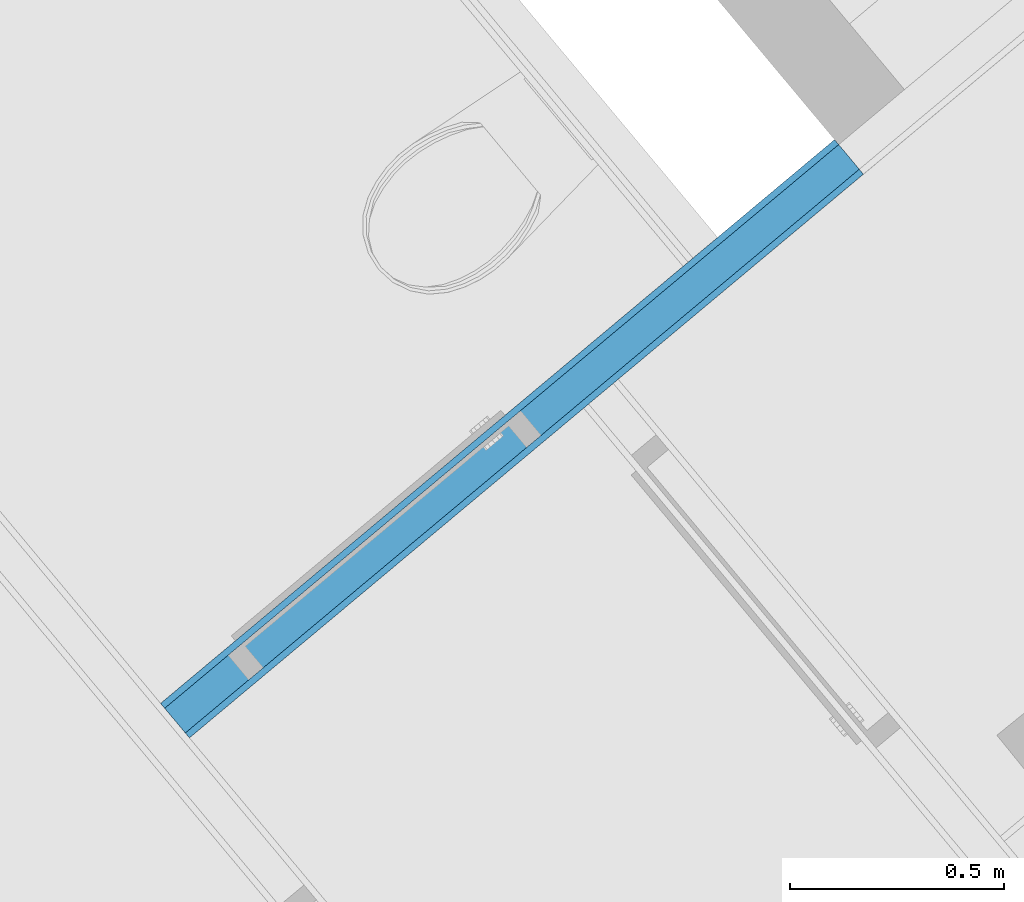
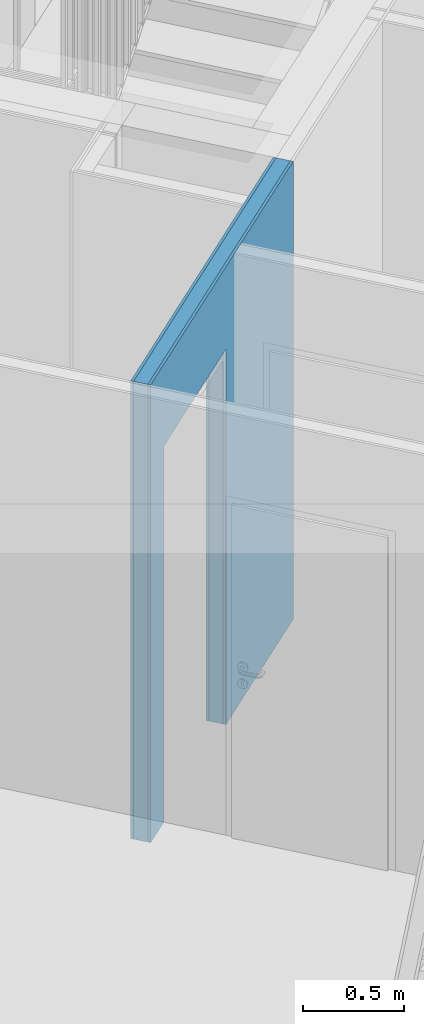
# One storey, part 4 of 67: 3 building element parts, 1 opening, 1 element without a shape of its own.
"""IFC4 building model written with IfcOpenShell, lengths in metres."""

import ifcopenshell
import ifcopenshell.guid

model = None  # the IFC model being written
_history = None  # IfcOwnerHistory: only IFC2X3 demands one
_inside = {}  # id of a spatial element -> (the spatial element, [elements in it])
_under = {}  # id of a project, library or spatial element -> (it, [spatial elements below it])
_declared = {}  # id of a project -> (the project, [libraries it declares])
_typed = {}  # id of a type object -> (the type object, [elements of that type])
_made_of = {}  # id of a material, layer set ... -> (it, [elements and type objects made of it])


def new_model(schema):
    """Start an empty IFC model of exactly this schema.

    Asked for "IFC4X3", IfcOpenShell would pick the latest addendum, in which some entities
    have other attributes; the version numbers below select the first issue.
    IFC2X3 requires an IfcOwnerHistory on every rooted entity: one is made here for all.
    """
    global model, _history
    if schema == "IFC4X3":
        model = ifcopenshell.file(schema_version=(4, 3, 0, 0))
    else:
        model = ifcopenshell.file(schema=schema)
    _inside.clear()
    _under.clear()
    _declared.clear()
    _typed.clear()
    _made_of.clear()
    _history = None
    if model.schema == "IFC2X3":
        org = make("IfcOrganization", Name="unknown")
        user = make(
            "IfcPersonAndOrganization",
            ThePerson=make("IfcPerson", FamilyName="unknown"),
            TheOrganization=org,
        )
        app = make(
            "IfcApplication",
            ApplicationDeveloper=org,
            Version="unknown",
            ApplicationFullName="unknown",
            ApplicationIdentifier="unknown",
        )
        _history = make(
            "IfcOwnerHistory",
            OwningUser=user,
            OwningApplication=app,
            ChangeAction="ADDED",
            CreationDate=0,
        )
    return model


def make(cls, **values):
    """One entity of the class cls with the attributes given. An attribute that is None is left unset."""
    return model.create_entity(
        cls, **{name: value for name, value in values.items() if value is not None}
    )


def entity(cls, *values):
    """Any entity or typed value of the class cls, its attributes in the order of the schema. None: left unset."""
    e = model.create_entity(cls)
    for i, value in enumerate(values):
        if value is not None:
            e[i] = value
    return e


def rooted(cls, **values):
    """An entity with a GlobalId (a new one), such as an element, a storey or a relation."""
    return make(cls, GlobalId=ifcopenshell.guid.new(), OwnerHistory=_history, **values)


def si_unit(unit_type, name, prefix=None):
    """IfcSIUnit, for example si_unit("LENGTHUNIT", "METRE", prefix="MILLI")."""
    return make("IfcSIUnit", UnitType=unit_type, Prefix=prefix, Name=name)


def converted_unit(unit_type, name, factor, base, dimensions=None, offset=None):
    """IfcConversionBasedUnit, such as the inch: factor (a typed value) times the base unit."""
    return make(
        "IfcConversionBasedUnit"
        if offset is None
        else "IfcConversionBasedUnitWithOffset",
        ConversionOffset=offset,
        Dimensions=None
        if dimensions is None
        else entity("IfcDimensionalExponents", *dimensions),
        UnitType=unit_type,
        Name=name,
        ConversionFactor=make(
            "IfcMeasureWithUnit", ValueComponent=factor, UnitComponent=base
        ),
    )


def derived_unit(unit_type, elements):
    """IfcDerivedUnit: a product of units, each with its exponent."""
    return make(
        "IfcDerivedUnit",
        Elements=[
            make("IfcDerivedUnitElement", Unit=unit, Exponent=power)
            for unit, power in elements
        ],
        UnitType=unit_type,
    )


def assignment(units):
    """IfcUnitAssignment: the units of a project."""
    return None if units is None else make("IfcUnitAssignment", Units=units)


def point(xyz):
    """IfcCartesianPoint."""
    return None if xyz is None else make("IfcCartesianPoint", Coordinates=xyz)


def direction(xyz):
    """IfcDirection."""
    return None if xyz is None else make("IfcDirection", DirectionRatios=xyz)


def frame(location, z_axis=None, x_axis=None):
    """IfcAxis2Placement3D, a coordinate frame: its origin and axes. An axis left out is left unset."""
    return make(
        "IfcAxis2Placement3D",
        Location=point(location),
        Axis=direction(z_axis),
        RefDirection=direction(x_axis),
    )


def origin_with_axes():
    """The frame at (0, 0, 0) with the z axis (0, 0, 1) and the x axis (1, 0, 0) written out."""
    return frame((0.0, 0.0, 0.0), z_axis=(0.0, 0.0, 1.0), x_axis=(1.0, 0.0, 0.0))


def place(relative_to, where):
    """IfcLocalPlacement: puts the frame where relative to a parent placement (None: the world)."""
    return make(
        "IfcLocalPlacement", PlacementRelTo=relative_to, RelativePlacement=where
    )


def context(
    kind, dimensions, precision=None, world=None, true_north=None, identifier=None
):
    """IfcGeometricRepresentationContext, for example the 3D "Model" context."""
    return make(
        "IfcGeometricRepresentationContext",
        ContextIdentifier=identifier,
        ContextType=kind,
        CoordinateSpaceDimension=dimensions,
        Precision=precision,
        WorldCoordinateSystem=world,
        TrueNorth=true_north,
    )


def subcontext(parent, identifier, kind, view, scale=None):
    """IfcGeometricRepresentationSubContext, for example "Body" below "Model"."""
    return make(
        "IfcGeometricRepresentationSubContext",
        ContextIdentifier=identifier,
        ContextType=kind,
        ParentContext=parent,
        TargetScale=scale,
        TargetView=view,
    )


def project(units=None, contexts=None):
    """IfcProject with its units and contexts."""
    return rooted(
        "IfcProject",
        Name="project",
        RepresentationContexts=contexts,
        UnitsInContext=assignment(units),
    )


def spatial(cls, under=None, at=None, **own):
    """A site, building, storey or space (cls), placed at a placement, below another one or the project."""
    s = rooted(cls, ObjectPlacement=at, **own)
    if under is not None:
        _under.setdefault(under.id(), (under, []))[1].append(s)
    return s


def point_list(points):
    """IfcCartesianPointList2D or 3D."""
    cls = (
        "IfcCartesianPointList2D" if len(points[0]) == 2 else "IfcCartesianPointList3D"
    )
    return make(cls, CoordList=points)


def polygons(points, faces, closed=None, point_numbers=None):
    """IfcPolygonalFaceSet: a face is its outer loop, then its inner loops; points numbered from 1."""
    made = []
    for loops in faces:
        if len(loops) == 1:
            made.append(make("IfcIndexedPolygonalFace", CoordIndex=loops[0]))
        else:
            made.append(
                make(
                    "IfcIndexedPolygonalFaceWithVoids",
                    CoordIndex=loops[0],
                    InnerCoordIndices=loops[1:],
                )
            )
    return make(
        "IfcPolygonalFaceSet",
        Coordinates=point_list(points),
        Closed=closed,
        Faces=made,
        PnIndex=point_numbers,
    )


def shape(context_of_items, identifier, shape_type, items):
    """IfcShapeRepresentation: the items that make up one representation, for example the "Body"."""
    return make(
        "IfcShapeRepresentation",
        ContextOfItems=context_of_items,
        RepresentationIdentifier=identifier,
        RepresentationType=shape_type,
        Items=items,
    )


def material(Name=None, Category=None):
    """IfcMaterial."""
    return make("IfcMaterial", Name=Name, Category=Category)


def made_of(thing, what):
    """Note that an element or type object is made of a material, layer set ...; save() writes the relation."""
    if what is not None:
        _made_of.setdefault(what.id(), (what, []))[1].append(thing)
    return thing


def type_object(cls, material=None, **own):
    """A type object (cls), such as IfcWallType, which elements share."""
    return made_of(rooted(cls, **own), material)


def element(
    cls,
    number,
    at=None,
    inside=None,
    cuts=None,
    type_object=None,
    material=None,
    context=None,
    identifier="Body",
    shape_type=None,
    held_by="IfcProductDefinitionShape",
    body=None,
    shapes=None,
    **own,
):
    """One element of the class cls, such as IfcWall. Its Tag is "e" and its number.

    at: its placement. inside: the storey or other place that contains it. cuts: it is an
    opening in that element (IfcRelVoidsElement). A single representation is given by context,
    identifier, shape_type and body (its items); several are given by shapes. held_by: the class
    of the entity that holds the representations. save() writes the other relations.
    """
    e = rooted(cls, Tag="e%d" % number, ObjectPlacement=at, **own)
    if body is not None:
        shapes = [shape(context, identifier, shape_type, body)]
    if shapes is not None:
        e.Representation = make(held_by, Representations=shapes)
    if inside is not None:
        _inside.setdefault(inside.id(), (inside, []))[1].append(e)
    if cuts is not None:
        rooted(
            "IfcRelVoidsElement", RelatingBuildingElement=cuts, RelatedOpeningElement=e
        )
    if type_object is not None:
        _typed.setdefault(type_object.id(), (type_object, []))[1].append(e)
    return made_of(e, material)


def aggregate(whole, parts):
    """IfcRelAggregates: a whole, such as a stair, and the parts it consists of."""
    return rooted("IfcRelAggregates", RelatingObject=whole, RelatedObjects=parts)


def save(model, path):
    """Write the relations noted so far, then the file.

    IfcRelAggregates (storeys below a building ...), IfcRelContainedInSpatialStructure (elements
    in a storey), IfcRelDefinesByType, IfcRelAssociatesMaterial and IfcRelDeclares: one each for
    every whole, place, type object, material and project.
    """
    for whole, parts in _under.values():
        aggregate(whole, parts)
    for where, things in _inside.values():
        rooted(
            "IfcRelContainedInSpatialStructure",
            RelatedElements=things,
            RelatingStructure=where,
        )
    for kind, things in _typed.values():
        rooted("IfcRelDefinesByType", RelatedObjects=things, RelatingType=kind)
    for what, things in _made_of.values():
        rooted("IfcRelAssociatesMaterial", RelatedObjects=things, RelatingMaterial=what)
    for by, libraries in _declared.values():
        rooted("IfcRelDeclares", RelatingContext=by, RelatedDefinitions=libraries)
    model.write(path)


model = new_model("IFC4")

# Units and contexts
model_context = context("Model", 3, precision=1e-05, world=origin_with_axes(), true_north=direction((0.0, 1.0)))
body_context = subcontext(model_context, "Body", "Model", "MODEL_VIEW")
ifc_project = project(units=[si_unit("LENGTHUNIT", "METRE"), si_unit("AREAUNIT", "SQUARE_METRE"), si_unit("VOLUMEUNIT", "CUBIC_METRE"), converted_unit("PLANEANGLEUNIT", "DEGREE", entity("IfcPlaneAngleMeasure", 0.0174532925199), si_unit("PLANEANGLEUNIT", "RADIAN"), dimensions=[0, 0, 0, 0, 0, 0, 0]), converted_unit("TIMEUNIT", "Year", entity("IfcTimeMeasure", 31556926.0), si_unit("TIMEUNIT", "SECOND"), dimensions=[0, 0, 1, 0, 0, 0, 0]), si_unit("MASSUNIT", "GRAM", prefix="KILO"), si_unit("THERMODYNAMICTEMPERATUREUNIT", "DEGREE_CELSIUS"), si_unit("LUMINOUSINTENSITYUNIT", "LUMEN"), si_unit("ENERGYUNIT", "JOULE", prefix="MEGA"), derived_unit("THERMALCONDUCTANCEUNIT", [(si_unit("POWERUNIT", "WATT"), 1), (si_unit("LENGTHUNIT", "METRE"), -1), (si_unit("THERMODYNAMICTEMPERATUREUNIT", "KELVIN"), -1)]), derived_unit("SPECIFICHEATCAPACITYUNIT", [(si_unit("ENERGYUNIT", "JOULE"), 1), (si_unit("MASSUNIT", "GRAM", prefix="KILO"), -1), (si_unit("THERMODYNAMICTEMPERATUREUNIT", "KELVIN"), -1)]), derived_unit("MASSDENSITYUNIT", [(si_unit("MASSUNIT", "GRAM", prefix="KILO"), 1), (si_unit("VOLUMEUNIT", "CUBIC_METRE"), -1)])], contexts=[model_context])

# Site, building, storey
site_placement = place(None, frame((-0.00153261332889, -0.00661245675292, 0.0), z_axis=(0.0, 0.0, 1.0), x_axis=(1.0, 0.0, 0.0)))
site = spatial("IfcSite", under=ifc_project, at=site_placement, Name="Site", CompositionType="ELEMENT")
building_placement = place(site_placement, origin_with_axes())
building = spatial("IfcBuilding", under=site, at=building_placement, Name="Building", CompositionType="ELEMENT")
storey_placement = place(building_placement, frame((0.0, 0.0, -0.22), z_axis=(0.0, 0.0, 1.0), x_axis=(1.0, 0.0, 0.0)))
storey = spatial("IfcBuildingStorey", under=building, at=storey_placement, Name="EG", CompositionType="ELEMENT", Elevation=-0.22)

# Wall, opening, building element parts
wall_type = type_object("IfcWallType", Name="IW LB 01 Leichtbautrennwand einfach 10,5 cm 105", PredefinedType="NOTDEFINED")
wall_placement = place(storey_placement, frame((-3.8779013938, 18.9137265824, 0.0), z_axis=(0.0, 0.0, 1.0), x_axis=(0.767062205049, 0.641572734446, 0.0)))
wall = element("IfcWall", 1, at=wall_placement, inside=storey, type_object=wall_type, Name="Wand-012", PredefinedType="NOTDEFINED")
opening_placement = place(wall_placement, frame((0.742573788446, 0.0, 0.22), z_axis=(0.0, 0.0, 1.0), x_axis=(1.0, 0.0, 0.0)))
element("IfcOpeningElement", 2, at=opening_placement, cuts=wall, Name="Tür-016", context=body_context, identifier="Reference", shape_type="Tessellation", body=[
    polygons([(-0.445, -1.16650854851, 2.045), (-0.445, -1.16650854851, -0.22), (0.445, -1.16650854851, -0.22), (0.445, -1.16650854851, 2.045), (-0.445, 1.06150854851, 2.045), (-0.445, 1.06150854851, -0.22), (0.445, 1.06150854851, -0.22), (0.445, 1.06150854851, 2.045)], [[[1, 2, 3, 4]], [[5, 6, 2, 1]], [[6, 7, 3, 2]], [[7, 8, 4, 3]], [[8, 5, 1, 4]], [[7, 6, 5, 8]]], closed=True),
])
ifc_material_1 = material(Name="Gipskarton")
building_element_part_1_placement = place(wall_placement, origin_with_axes())
building_element_part_1 = element("IfcBuildingElementPart", 3, at=building_element_part_1_placement, material=ifc_material_1, Name="Gipskarton", PredefinedType="NOTDEFINED", context=body_context, shape_type="Tessellation", body=[
    polygons([(0.297573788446, -0.015, 0.22), (0.297573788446, -0.015, 2.265), (1.18757378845, -0.015, 2.265), (1.18757378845, -0.015, 0.22), (1.18757378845, -0.015, 0.0), (2.15495244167, -0.015, 0.0), (2.15495244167, -0.015, 2.76), (0.104992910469, -0.015, 2.76), (0.104992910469, -0.015, 0.0), (0.297573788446, -0.015, 0.0), (0.297573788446, 3.45460549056e-09, 0.22), (0.297573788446, -8.58950244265e-10, 2.265), (1.18757378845, -8.58953796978e-10, 2.265), (1.18757378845, -8.58946691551e-10, 0.22), (1.18757378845, -8.58950244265e-10, 0.0), (2.15495244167, 0.0, 0.0), (2.15495244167, 0.0, 2.76), (1.79937701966, 1.96622167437e-08, 2.76), (0.105000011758, 0.0, 2.76), (0.105000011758, 0.0, 0.0), (0.297573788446, 3.45460549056e-09, 0.0)], [[[1, 2, 3, 4, 5, 6, 7, 8, 9, 10]], [[2, 1, 11, 12]], [[3, 2, 12, 13]], [[4, 3, 13, 14]], [[4, 14, 15, 5]], [[15, 16, 6, 5]], [[17, 7, 6, 16]], [[7, 17, 18, 19, 8]], [[19, 20, 9, 8]], [[10, 9, 20, 21]], [[11, 1, 10, 21]], [[12, 11, 21, 20, 19, 18, 17, 16, 15, 14, 13]]], closed=True),
])
ifc_material_2 = material(Name="Mineralwolle weich")
building_element_part_2_placement = place(wall_placement, origin_with_axes())
building_element_part_2 = element("IfcBuildingElementPart", 4, at=building_element_part_2_placement, material=ifc_material_2, Name="Mineralwolle weich", PredefinedType="NOTDEFINED", context=body_context, shape_type="Tessellation", body=[
    polygons([(0.297573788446, -0.09, 0.22), (0.297573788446, -0.09, 2.265), (1.18757378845, -0.09, 2.265), (1.18757378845, -0.09, 0.22), (1.18757378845, -0.09, 0.0), (2.15495244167, -0.09, 0.0), (2.15495244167, -0.09, 2.76), (0.104957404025, -0.09, 2.76), (0.104957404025, -0.09, 0.0), (0.297573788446, -0.09, 0.0), (0.297573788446, -0.015, 0.22), (0.297573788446, -0.015, 2.265), (1.18757378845, -0.015, 2.265), (1.18757378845, -0.015, 0.22), (1.18757378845, -0.015, 0.0), (2.15495244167, -0.015, 0.0), (2.15494534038, -0.0149999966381, 2.76), (0.104992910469, -0.015, 2.76), (0.104992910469, -0.015, 0.0), (0.297573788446, -0.015, 0.0)], [[[1, 2, 3, 4, 5, 6, 7, 8, 9, 10]], [[2, 1, 11, 12]], [[3, 2, 12, 13]], [[4, 3, 13, 14]], [[4, 14, 15, 5]], [[15, 16, 6, 5]], [[7, 6, 16, 17]], [[18, 8, 7, 17]], [[18, 19, 9, 8]], [[10, 9, 19, 20]], [[11, 1, 10, 20]], [[12, 11, 20, 19, 18, 17, 16, 15, 14, 13]]], closed=True),
])
building_element_part_3_placement = place(wall_placement, origin_with_axes())
building_element_part_3 = element("IfcBuildingElementPart", 5, at=building_element_part_3_placement, material=ifc_material_1, Name="Gipskarton", PredefinedType="NOTDEFINED", context=body_context, shape_type="Tessellation", body=[
    polygons([(0.297573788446, -0.105, 0.22), (0.297573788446, -0.105, 2.265), (1.18757378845, -0.105, 2.265), (1.18757378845, -0.105, 0.22), (1.18757378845, -0.105, 0.0), (2.15495244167, -0.105, 0.0), (2.15495244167, -0.105, 2.76), (0.104950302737, -0.105, 2.76), (0.104950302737, -0.105, 0.0), (0.297573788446, -0.105, 0.0), (0.297573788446, -0.09, 0.22), (0.297573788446, -0.09, 2.265), (1.18757378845, -0.09, 2.265), (1.18757378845, -0.09, 0.22), (1.18757378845, -0.09, 0.0), (2.15495244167, -0.09, 0.0), (2.15495244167, -0.09, 2.76), (0.104957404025, -0.09, 2.76), (0.104957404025, -0.09, 0.0), (0.297573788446, -0.09, 0.0)], [[[1, 2, 3, 4, 5, 6, 7, 8, 9, 10]], [[2, 1, 11, 12]], [[3, 2, 12, 13]], [[4, 3, 13, 14]], [[4, 14, 15, 5]], [[15, 16, 6, 5]], [[7, 6, 16, 17]], [[18, 8, 7, 17]], [[18, 19, 9, 8]], [[10, 9, 19, 20]], [[11, 1, 10, 20]], [[12, 11, 20, 19, 18, 17, 16, 15, 14, 13]]], closed=True),
])
aggregate(wall, [building_element_part_1, building_element_part_2, building_element_part_3])

save(model, "model.ifc")
